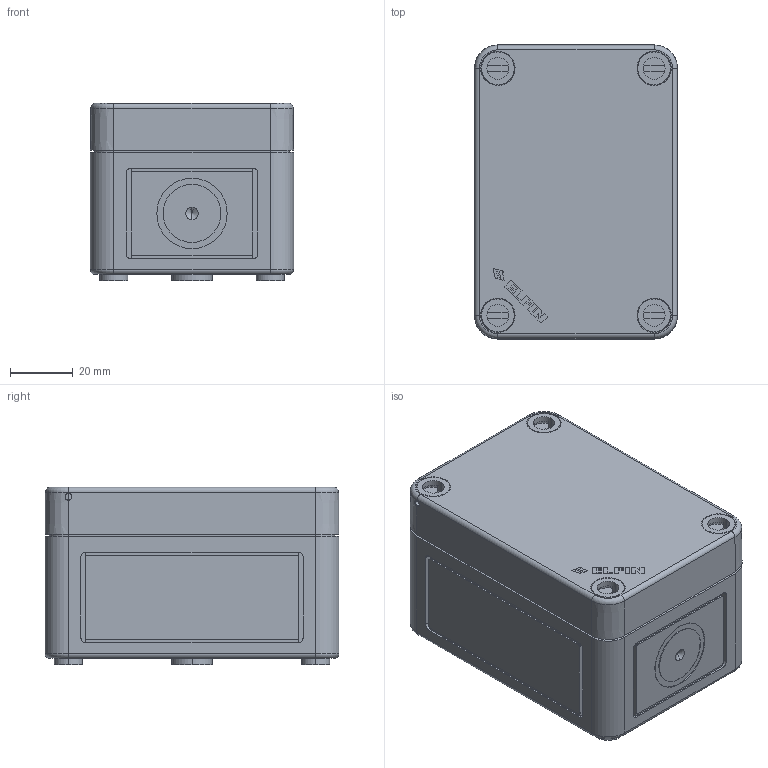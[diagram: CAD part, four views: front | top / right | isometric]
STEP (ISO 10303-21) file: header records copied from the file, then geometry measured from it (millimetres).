
FILE_DESCRIPTION (( 'STEP AP214' ), '1' );
FILE_NAME ('080C0609-5.STEP', '2018-05-02T06:53:32', ( '' ), ( '' ), 'SwSTEP 2.0', 'SolidWorks 2013', '' );
FILE_SCHEMA (( 'AUTOMOTIVE_DESIGN' ));
Length unit declared in the file: millimetre
Products named in the file (1): 080C0609-5
Bounding box: 65.02 x 94.02 x 56.71 mm (x, y, z)
Volume: 90397.8 mm3; surface area: 69759.9 mm2
Topology: 12 solids, 12 shells, 682 faces, 1739 edges, 1129 vertices
Faces by surface type: plane 391, cylinder 192, cone 80, torus 16, bspline 3
Entity records: 23176 total; most frequent: CARTESIAN_POINT 4538, ORIENTED_EDGE 3474, DIRECTION 3418, EDGE_CURVE 1737, AXIS2_PLACEMENT_3D 1230, VERTEX_POINT 1129, VECTOR 958, LINE 958
